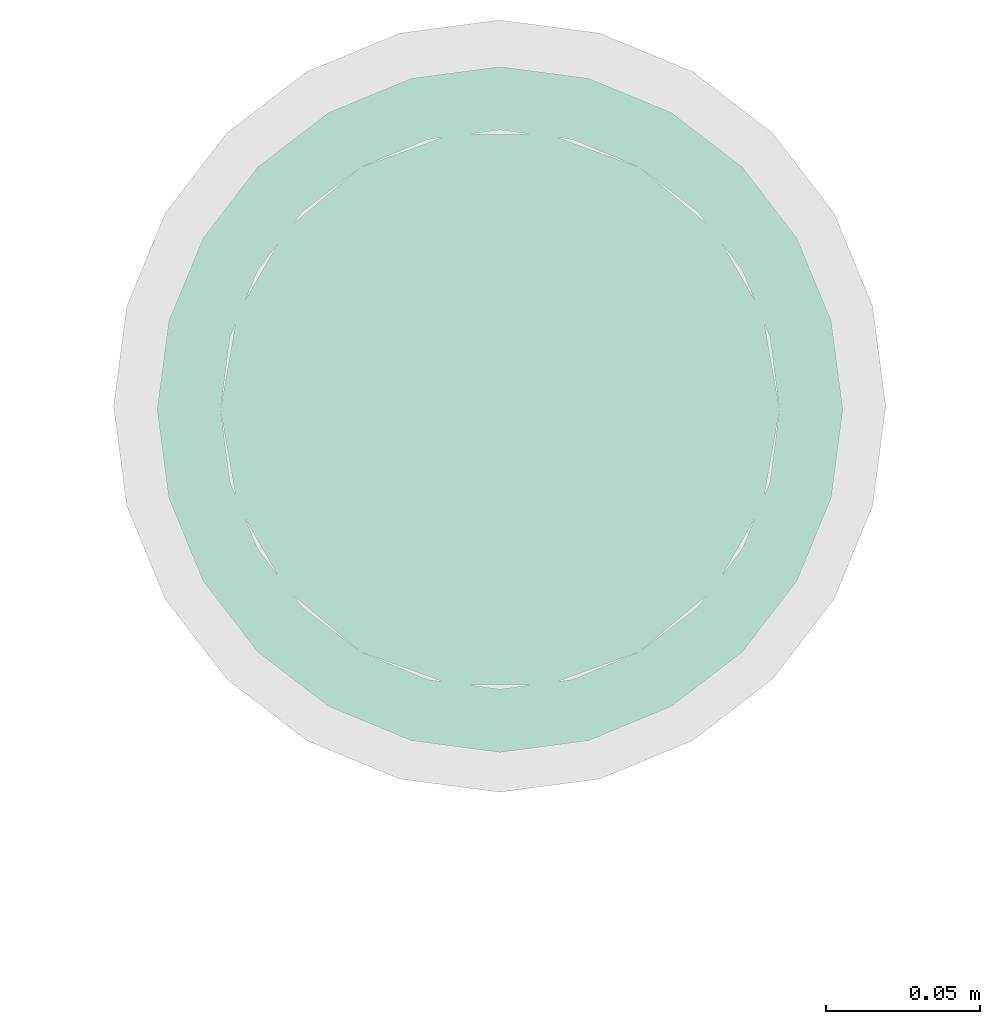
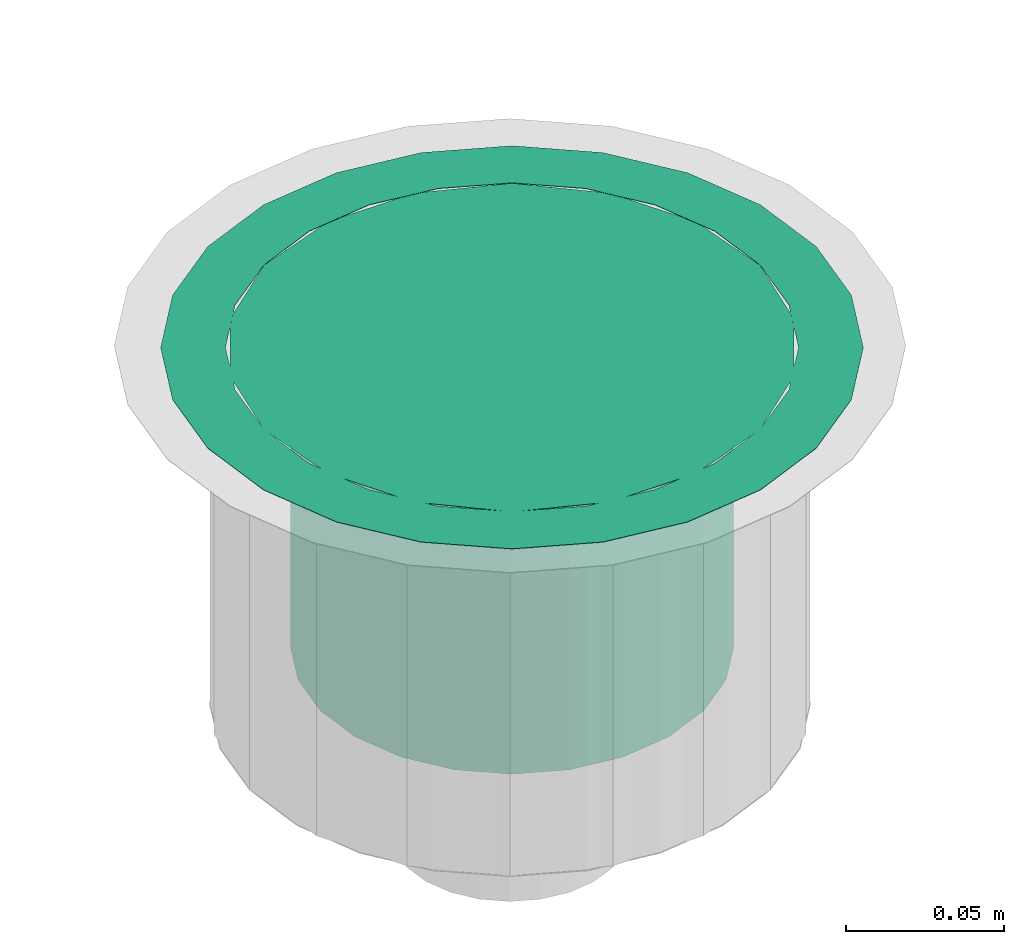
# One storey, part 61 of 108: 1 flow terminal.
"""IFC2X3 building model written with IfcOpenShell, lengths in millimetres."""

from ifc_helpers import new_model, entity, si_unit, converted_unit, derived_unit, direction, frame, origin_with_axes, place, context, subcontext, project, spatial, open_shell, surface_model, source, transform, mapped, type_object, element, save


model = new_model("IFC2X3")

# Units and contexts
model_context = context("Model", 3, precision=0.01, world=frame((0.0, 4.29681676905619e-09, 0.0)), true_north=direction((4.01073788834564e-13, 1.0)))
plan_context = context("Plan", 3, precision=0.01, world=frame((0.0, 4.29681676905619e-09, 0.0)), true_north=direction((4.01073788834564e-13, 1.0)))
body_context = subcontext(model_context, "Body", "Model", "MODEL_VIEW")
ifc_project = project(units=[converted_unit("PLANEANGLEUNIT", "DEGREE", entity("IfcPositiveLengthMeasure", 0.0174532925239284), si_unit("PLANEANGLEUNIT", "RADIAN"), dimensions=[0, 0, 0, 0, 0, 0, 0]), si_unit("AREAUNIT", "SQUARE_METRE"), si_unit("LENGTHUNIT", "METRE", prefix="MILLI"), si_unit("MASSUNIT", "GRAM", prefix="KILO"), si_unit("POWERUNIT", "WATT"), si_unit("PRESSUREUNIT", "PASCAL", prefix="KILO"), si_unit("FORCEUNIT", "NEWTON", prefix="KILO"), si_unit("ELECTRICVOLTAGEUNIT", "VOLT"), si_unit("ELECTRICCURRENTUNIT", "AMPERE"), si_unit("THERMODYNAMICTEMPERATUREUNIT", "DEGREE_CELSIUS"), si_unit("TIMEUNIT", "SECOND"), si_unit("VOLUMEUNIT", "CUBIC_METRE"), derived_unit("LINEARVELOCITYUNIT", [(si_unit("LENGTHUNIT", "METRE"), 1), (si_unit("TIMEUNIT", "SECOND"), -1)]), derived_unit("VOLUMETRICFLOWRATEUNIT", [(si_unit("VOLUMEUNIT", "CUBIC_METRE"), 1), (si_unit("TIMEUNIT", "SECOND"), -1)]), derived_unit("THERMALTRANSMITTANCEUNIT", [(si_unit("POWERUNIT", "WATT"), 1), (si_unit("THERMODYNAMICTEMPERATUREUNIT", "KELVIN"), -1), (si_unit("AREAUNIT", "SQUARE_METRE"), -1)]), derived_unit("SOUNDPRESSUREUNIT", [(si_unit("PRESSUREUNIT", "PASCAL"), 1)])], contexts=[model_context, plan_context])

# Site, building, storey
site_placement = place(None, frame((0.0, -4.29681676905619e-09, 0.0), z_axis=(0.0, 0.0, 1.0), x_axis=(1.0, 0.0, 0.0)))
site = spatial("IfcSite", under=ifc_project, at=site_placement, CompositionType="ELEMENT")
building_placement = place(site_placement, frame((0.0, 4.29681676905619e-09, 0.0), z_axis=(0.0, 0.0, 1.0), x_axis=(1.0, 0.0, 0.0)))
building = spatial("IfcBuilding", under=site, at=building_placement, Name="mc-building", CompositionType="ELEMENT")
storey_placement = place(building_placement, frame((0.0, 0.0, 210200.0), z_axis=(0.0, 0.0, 1.0), x_axis=(1.0, 0.0, 0.0)))
storey = spatial("IfcBuildingStorey", under=building, at=storey_placement, Name="Nivå F - 0,7 m", CompositionType="ELEMENT", Elevation=210200.0)

# Flow terminal
waste_terminal_type = type_object("IfcWasteTerminalType", Name="BM NO. 210.200.075 V  MULTI 206-75S D150 Horizontal", PredefinedType="NOTDEFINED")
shared_shape = source(origin_with_axes(), body_context, "Body", "SurfaceModel", [
    surface_model("IfcShellBasedSurfaceModel", [(10.04218, -37.47792, -122.9), (19.4, -33.60178, -122.9), (27.43574, -27.43574, -122.9), (-38.8, 0.0, -122.9), (37.47792, -10.04218, -122.9), (33.60178, -19.4, -122.9), (-19.4, -33.60178, -122.9), (0.0, -38.8, -122.9), (-10.04218, -37.47792, -122.9), (-33.60178, -19.4, -122.9), (-27.43574, -27.43574, -122.9), (-37.47792, -10.04218, -122.9), (38.8, 0.0, -122.9), (37.47792, 10.04218, -122.9), (33.60178, 19.4, -122.9), (27.43574, 27.43574, -122.9), (19.4, 33.60178, -122.9), (10.04218, 37.47792, -122.9), (0.0, 38.8, -122.9), (-37.47792, 10.04218, -122.9), (-27.43574, 27.43574, -122.9), (-33.60178, 19.4, -122.9), (-10.04218, 37.47792, -122.9), (-19.4, 33.60178, -122.9), (0.0, 38.8, -123.1), (10.04218, 37.47792, -123.1), (19.4, 33.60178, -123.1), (-10.04218, 37.47792, -123.1), (27.43574, 27.43574, -123.1), (33.60178, 19.4, -123.1), (37.47792, 10.04218, -123.1), (-37.47792, 10.04218, -123.1), (-19.4, 33.60178, -123.1), (-27.43574, 27.43574, -123.1), (-33.60178, 19.4, -123.1), (10.04218, -37.47792, -123.1), (-38.8, 0.0, -123.1), (38.8, 0.0, -123.1), (37.47792, -10.04218, -123.1), (33.60178, -19.4, -123.1), (27.43574, -27.43574, -123.1), (19.4, -33.60178, -123.1), (-19.4, -33.60178, -123.1), (-33.60178, -19.4, -123.1), (-27.43574, -27.43574, -123.1), (-37.47792, -10.04218, -123.1), (0.0, -38.8, -123.1), (-10.04218, -37.47792, -123.1), (-55.5, 96.12882, 0.1), (-78.48885, 78.48885, 0.1), (-45.25, 78.3753, 0.1), (-63.99316, 63.99316, 0.1), (-23.42312, 87.41628, 0.1), (-28.72892, 107.21777, 0.1), (0.0, 90.5, 0.1), (0.0, 111.0, 0.1), (-87.41628, 23.42312, 0.1), (-96.12882, 55.5, 0.1), (-107.21777, 28.72892, 0.1), (-90.5, 0.0, 0.1), (-111.0, 0.0, 0.1), (-78.3753, 45.25, 0.1), (23.42312, 87.41628, 0.1), (28.72892, 107.21777, 0.1), (45.25, 78.3753, 0.1), (78.48885, 78.48885, 0.1), (55.5, 96.12882, 0.1), (63.99316, 63.99316, 0.1), (78.3753, 45.25, 0.1), (87.41628, 23.42312, 0.1), (96.12882, 55.5, 0.1), (107.21777, 28.72892, 0.1), (90.5, 0.0, 0.1), (111.0, 0.0, 0.1), (-87.41628, -23.42312, 0.1), (-107.21777, -28.72892, 0.1), (-78.3753, -45.25, 0.1), (-96.12882, -55.5, 0.1), (-63.99316, -63.99316, 0.1), (-78.48885, -78.48885, 0.1), (-45.25, -78.3753, 0.1), (-55.5, -96.12882, 0.1), (-23.42312, -87.41628, 0.1), (-28.72892, -107.21777, 0.1), (0.0, -90.5, 0.1), (0.0, -111.0, 0.1), (96.12882, -55.5, 0.1), (78.3753, -45.25, 0.1), (78.48885, -78.48885, 0.1), (87.41628, -23.42312, 0.1), (107.21777, -28.72892, 0.1), (63.99316, -63.99316, 0.1), (23.42312, -87.41628, 0.1), (28.72892, -107.21777, 0.1), (45.25, -78.3753, 0.1), (55.5, -96.12882, 0.1), (-55.5, -96.12882, -0.1), (-78.48885, -78.48885, -0.1), (-45.25, -78.3753, -0.1), (-63.99316, -63.99316, -0.1), (-23.42312, -87.41628, -0.1), (-28.72892, -107.21777, -0.1), (0.0, -90.5, -0.1), (0.0, -111.0, -0.1), (-87.41628, -23.42312, -0.1), (-96.12882, -55.5, -0.1), (-107.21777, -28.72892, -0.1), (-90.5, 0.0, -0.1), (-111.0, 0.0, -0.1), (-78.3753, -45.25, -0.1), (23.42312, -87.41628, -0.1), (28.72892, -107.21777, -0.1), (45.25, -78.3753, -0.1), (78.48885, -78.48885, -0.1), (55.5, -96.12882, -0.1), (63.99316, -63.99316, -0.1), (78.3753, -45.25, -0.1), (87.41628, -23.42312, -0.1), (96.12882, -55.5, -0.1), (107.21777, -28.72892, -0.1), (90.5, 0.0, -0.1), (111.0, 0.0, -0.1), (-87.41628, 23.42312, -0.1), (-107.21777, 28.72892, -0.1), (-78.3753, 45.25, -0.1), (-96.12882, 55.5, -0.1), (-63.99316, 63.99316, -0.1), (-78.48885, 78.48885, -0.1), (-45.25, 78.3753, -0.1), (-55.5, 96.12882, -0.1), (-23.42312, 87.41628, -0.1), (-28.72892, 107.21777, -0.1), (0.0, 90.5, -0.1), (0.0, 111.0, -0.1), (96.12882, 55.5, -0.1), (78.3753, 45.25, -0.1), (78.48885, 78.48885, -0.1), (87.41628, 23.42312, -0.1), (107.21777, 28.72892, -0.1), (63.99316, 63.99316, -0.1), (23.42312, 87.41628, -0.1), (28.72892, 107.21777, -0.1), (45.25, 78.3753, -0.1), (55.5, 96.12882, -0.1), (-10.79227, 47.28401, -115.5), (-30.23926, 37.91883, -115.5), (-43.69699, 21.04336, -115.5), (43.69699, -21.04336, -115.5), (43.69699, 21.04336, -115.5), (10.79227, 47.28401, -115.5), (30.23926, 37.91883, -115.5), (-48.5, 0.0, -115.5), (-43.69699, -21.04336, -115.5), (-30.23926, -37.91883, -115.5), (-10.79227, -47.28401, -115.5), (10.79227, -47.28401, -115.5), (48.5, 0.0, -115.5), (30.23926, -37.91883, -115.5), (38.8, 0.0, -123.0), (0.0, 38.8, -123.0), (19.4, 33.60178, -123.0), (-19.4, 33.60178, -123.0), (-38.8, 0.0, -123.0), (-33.60178, 19.4, -123.0), (33.60178, 19.4, -123.0), (0.0, -38.8, -123.0), (33.60178, -19.4, -123.0), (19.4, -33.60178, -123.0), (-33.60178, -19.4, -123.0), (-19.4, -33.60178, -123.0), (-26.50089, -26.50089, -123.0), (-20.51576, -42.60141, -115.5), (-36.96812, -29.48109, -115.5), (-36.20089, -9.7, -123.0), (26.50089, -26.50089, -123.0), (46.09849, -10.52168, -115.5), (36.20089, -9.7, -123.0), (-9.7, -36.20089, -123.0), (0.0, -47.28401, -115.5), (20.51576, -42.60141, -115.5), (-46.09849, -10.52168, -115.5), (9.7, -36.20089, -123.0), (36.96812, -29.48109, -115.5), (26.50089, 26.50089, -123.0), (20.51576, 42.60141, -115.5), (36.96812, 29.48109, -115.5), (36.20089, 9.7, -123.0), (-26.50089, 26.50089, -123.0), (-46.09849, 10.52168, -115.5), (-36.20089, 9.7, -123.0), (9.7, 36.20089, -123.0), (0.0, 47.28401, -115.5), (-20.51576, 42.60141, -115.5), (46.09849, 10.52168, -115.5), (-9.7, 36.20089, -123.0), (-36.96812, 29.48109, -115.5), (-45.25, 78.3753, 0.0), (-69.32702, 58.17228, 0.0), (-85.04218, 30.95282, 0.0), (69.32702, -58.17228, 0.0), (-15.71516, 89.1251, 0.0), (-45.25, -78.3753, 0.0), (15.71516, 89.1251, 0.0), (45.25, 78.3753, 0.0), (69.32702, 58.17228, 0.0), (90.5, 0.0, 0.0), (85.04218, 30.95282, 0.0), (-90.5, 0.0, 0.0), (-85.04218, -30.95282, 0.0), (-69.32702, -58.17228, 0.0), (45.25, -78.3753, 0.0), (-15.71516, -89.1251, 0.0), (85.04218, -30.95282, 0.0), (15.71516, -89.1251, 0.0), (-26.78784, 64.67157, -20.0), (0.0, 70.0, -20.0), (26.78784, 64.67157, -20.0), (49.49747, 49.49747, -20.0), (-49.49747, -49.49747, -20.0), (-49.49747, 49.49747, -20.0), (-64.67157, 26.78784, -20.0), (-70.0, 0.0, -20.0), (64.67157, 26.78784, -20.0), (70.0, 0.0, -20.0), (64.67157, -26.78784, -20.0), (49.49747, -49.49747, -20.0), (26.78784, -64.67157, -20.0), (-64.67157, -26.78784, -20.0), (0.0, -70.0, -20.0), (-26.78784, -64.67157, -20.0), (-67.33578, -13.39392, -20.0), (38.14266, -57.08452, -20.0), (-38.14266, -57.08452, -20.0), (-13.39392, -67.33578, -20.0), (-57.08452, -38.14266, -20.0), (13.39392, -67.33578, -20.0), (57.08452, -38.14266, -20.0), (67.33578, -13.39392, -20.0), (67.33578, 13.39392, -20.0), (-38.14266, 57.08452, -20.0), (38.14266, 57.08452, -20.0), (13.39392, 67.33578, -20.0), (57.08452, 38.14266, -20.0), (-13.39392, 67.33578, -20.0), (-57.08452, 38.14266, -20.0), (-67.33578, 13.39392, -20.0), (67.61481, -18.11733, -20.0), (18.11733, -67.61481, -20.0), (35.0, -60.62178, -20.0), (-35.0, -60.62178, -20.0), (60.62178, -35.0, -20.0), (18.11733, 67.61481, -20.0), (-60.62178, -35.0, -20.0), (-18.11733, -67.61481, -20.0), (-67.61481, -18.11733, -20.0), (67.61481, 18.11733, -20.0), (60.62178, 35.0, -20.0), (35.0, 60.62178, -20.0), (-67.61481, 18.11733, -20.0), (-60.62178, 35.0, -20.0), (-35.0, 60.62178, -20.0), (-18.11733, 67.61481, -20.0), (18.11733, 67.61481, -105.5), (-70.0, 0.0, -105.5), (0.0, 70.0, -105.5), (49.49747, 49.49747, -105.5), (35.0, 60.62178, -105.5), (60.62178, 35.0, -105.5), (67.61481, 18.11733, -105.5), (-35.0, 60.62178, -105.5), (-18.11733, 67.61481, -105.5), (-49.49747, 49.49747, -105.5), (-67.61481, 18.11733, -105.5), (-60.62178, 35.0, -105.5), (70.0, 0.0, -105.5), (67.61481, -18.11733, -105.5), (0.0, -70.0, -105.5), (49.49747, -49.49747, -105.5), (60.62178, -35.0, -105.5), (35.0, -60.62178, -105.5), (18.11733, -67.61481, -105.5), (-60.62178, -35.0, -105.5), (-35.0, -60.62178, -105.5), (-49.49747, -49.49747, -105.5), (-67.61481, -18.11733, -105.5), (-18.11733, -67.61481, -105.5), (34.9, -60.44857, -105.5), (18.06557, -67.42162, -105.5), (0.0, -69.8, -105.5), (49.35605, -49.35605, -105.5), (69.8, 0.0, -105.5), (67.42162, -18.06557, -105.5), (60.44857, -34.9, -105.5), (-18.06557, -67.42162, -105.5), (-34.9, -60.44857, -105.5), (-49.35605, -49.35605, -105.5), (-60.44857, -34.9, -105.5), (-67.42162, -18.06557, -105.5), (-69.8, 0.0, -105.5), (67.42162, 18.06557, -105.5), (60.44857, 34.9, -105.5), (49.35605, 49.35605, -105.5), (34.9, 60.44857, -105.5), (18.06557, 67.42162, -105.5), (0.0, 69.8, -105.5), (-60.44857, 34.9, -105.5), (-49.35605, 49.35605, -105.5), (-67.42162, 18.06557, -105.5), (-18.06557, 67.42162, -105.5), (-34.9, 60.44857, -105.5), (18.11733, 67.61481, -115.5), (-70.0, 0.0, -115.5), (0.0, 70.0, -115.5), (49.49747, 49.49747, -115.5), (35.0, 60.62178, -115.5), (60.62178, 35.0, -115.5), (67.61481, 18.11733, -115.5), (-35.0, 60.62178, -115.5), (-18.11733, 67.61481, -115.5), (-49.49747, 49.49747, -115.5), (-67.61481, 18.11733, -115.5), (-60.62178, 35.0, -115.5), (70.0, 0.0, -115.5), (67.61481, -18.11733, -115.5), (0.0, -70.0, -115.5), (49.49747, -49.49747, -115.5), (60.62178, -35.0, -115.5), (35.0, -60.62178, -115.5), (18.11733, -67.61481, -115.5), (-60.62178, -35.0, -115.5), (-35.0, -60.62178, -115.5), (-49.49747, -49.49747, -115.5), (-67.61481, -18.11733, -115.5), (-18.11733, -67.61481, -115.5), (0.0, 69.8, -115.3), (-49.35605, 49.35605, -115.3), (18.06557, 67.42162, -115.3), (34.9, 60.44857, -115.3), (49.35605, 49.35605, -115.3), (67.42162, 18.06557, -115.3), (60.44857, 34.9, -115.3), (-69.8, 0.0, -115.3), (-67.42162, -18.06557, -115.3), (-18.06557, 67.42162, -115.3), (-34.9, 60.44857, -115.3), (-67.42162, 18.06557, -115.3), (-60.44857, 34.9, -115.3), (67.42162, -18.06557, -115.3), (60.44857, -34.9, -115.3), (18.06557, -67.42162, -115.3), (34.9, -60.44857, -115.3), (49.35605, -49.35605, -115.3), (-34.9, -60.44857, -115.3), (-60.44857, -34.9, -115.3), (-49.35605, -49.35605, -115.3), (-18.06557, -67.42162, -115.3), (0.0, -69.8, -115.3), (69.8, 0.0, -115.3)], [open_shell([[[0, 1, 2]], [[3, 0, 2]], [[3, 2, 4]], [[4, 2, 5]], [[6, 0, 3]], [[7, 6, 8]], [[7, 0, 6]], [[6, 9, 10]], [[6, 3, 9]], [[9, 3, 11]], [[4, 12, 13]], [[13, 14, 15]], [[4, 15, 3]], [[16, 17, 18]], [[3, 15, 16]], [[3, 16, 18]], [[19, 20, 21]], [[22, 19, 3]], [[19, 23, 20]], [[23, 19, 22]], [[3, 18, 22]], [[15, 4, 13]], [[24, 25, 26]], [[27, 24, 26]], [[28, 29, 30]], [[27, 26, 28]], [[31, 28, 30]], [[32, 31, 33]], [[32, 27, 28]], [[33, 31, 34]], [[28, 31, 32]], [[31, 35, 36]], [[31, 30, 37]], [[31, 38, 35]], [[35, 38, 39]], [[40, 41, 35]], [[40, 35, 39]], [[42, 36, 35]], [[43, 42, 44]], [[45, 36, 43]], [[42, 46, 47]], [[43, 36, 42]], [[46, 42, 35]], [[37, 38, 31]], [[45, 11, 36]], [[43, 9, 45]], [[6, 44, 42]], [[43, 44, 10]], [[8, 42, 47]], [[45, 9, 11]], [[11, 3, 36]], [[8, 6, 42]], [[10, 44, 6]], [[10, 9, 43]], [[7, 8, 47]], [[47, 46, 7]], [[35, 0, 46]], [[41, 1, 35]], [[5, 40, 39]], [[41, 40, 2]], [[4, 39, 38]], [[41, 2, 1]], [[1, 0, 35]], [[12, 4, 38]], [[5, 39, 4]], [[5, 2, 40]], [[37, 12, 38]], [[46, 0, 7]], [[30, 13, 37]], [[29, 14, 30]], [[16, 28, 26]], [[29, 28, 15]], [[17, 26, 25]], [[30, 14, 13]], [[13, 12, 37]], [[17, 16, 26]], [[15, 28, 16]], [[15, 14, 29]], [[18, 17, 25]], [[25, 24, 18]], [[27, 22, 24]], [[32, 23, 27]], [[21, 33, 34]], [[32, 33, 20]], [[19, 34, 31]], [[32, 20, 23]], [[23, 22, 27]], [[3, 19, 31]], [[21, 34, 19]], [[21, 20, 33]], [[36, 3, 31]], [[24, 22, 18]], [[48, 49, 50]], [[50, 49, 51]], [[48, 50, 52]], [[53, 52, 54]], [[52, 53, 48]], [[53, 54, 55]], [[56, 57, 58]], [[59, 58, 60]], [[56, 58, 59]], [[61, 51, 57]], [[56, 61, 57]], [[57, 51, 49]], [[55, 62, 63]], [[55, 54, 62]], [[63, 62, 64]], [[65, 66, 67]], [[64, 66, 63]], [[67, 66, 64]], [[68, 69, 70]], [[68, 70, 65]], [[69, 71, 70]], [[71, 69, 72]], [[71, 72, 73]], [[68, 65, 67]], [[74, 60, 75]], [[76, 75, 77]], [[76, 74, 75]], [[78, 76, 77]], [[77, 79, 78]], [[80, 79, 81]], [[79, 80, 78]], [[80, 81, 82]], [[82, 83, 84]], [[83, 82, 81]], [[84, 83, 85]], [[86, 87, 88]], [[89, 87, 90]], [[89, 90, 73]], [[90, 87, 86]], [[87, 91, 88]], [[73, 72, 89]], [[92, 85, 93]], [[85, 92, 84]], [[92, 93, 94]], [[95, 88, 91]], [[95, 94, 93]], [[95, 91, 94]], [[74, 59, 60]], [[96, 97, 98]], [[98, 97, 99]], [[96, 98, 100]], [[101, 100, 102]], [[100, 101, 96]], [[101, 102, 103]], [[104, 105, 106]], [[107, 106, 108]], [[104, 106, 107]], [[109, 99, 105]], [[104, 109, 105]], [[105, 99, 97]], [[103, 110, 111]], [[103, 102, 110]], [[111, 110, 112]], [[113, 114, 115]], [[112, 114, 111]], [[115, 114, 112]], [[116, 117, 118]], [[116, 118, 113]], [[117, 119, 118]], [[119, 117, 120]], [[119, 120, 121]], [[116, 113, 115]], [[122, 108, 123]], [[124, 123, 125]], [[124, 122, 123]], [[126, 124, 125]], [[125, 127, 126]], [[128, 127, 129]], [[127, 128, 126]], [[128, 129, 130]], [[130, 131, 132]], [[131, 130, 129]], [[132, 131, 133]], [[134, 135, 136]], [[137, 135, 138]], [[137, 138, 121]], [[138, 135, 134]], [[135, 139, 136]], [[121, 120, 137]], [[140, 133, 141]], [[133, 140, 132]], [[140, 141, 142]], [[143, 136, 139]], [[143, 142, 141]], [[143, 139, 142]], [[122, 107, 108]], [[59, 107, 56]], [[56, 122, 61]], [[50, 51, 126]], [[124, 51, 61]], [[52, 50, 128]], [[122, 124, 61]], [[56, 107, 122]], [[132, 54, 130]], [[52, 128, 130]], [[128, 50, 126]], [[51, 124, 126]], [[52, 130, 54]], [[62, 140, 64]], [[64, 142, 67]], [[69, 68, 135]], [[139, 68, 67]], [[72, 69, 137]], [[140, 142, 64]], [[62, 132, 140]], [[69, 135, 137]], [[135, 68, 139]], [[67, 142, 139]], [[72, 137, 120]], [[54, 132, 62]], [[72, 120, 89]], [[89, 117, 87]], [[94, 91, 115]], [[116, 91, 87]], [[92, 94, 112]], [[117, 116, 87]], [[89, 120, 117]], [[102, 84, 110]], [[92, 112, 110]], [[112, 94, 115]], [[91, 116, 115]], [[92, 110, 84]], [[82, 100, 80]], [[80, 98, 78]], [[104, 59, 74]], [[78, 99, 76]], [[74, 76, 109]], [[100, 98, 80]], [[82, 102, 100]], [[59, 104, 107]], [[109, 76, 99]], [[78, 98, 99]], [[109, 104, 74]], [[84, 102, 82]], [[106, 75, 108]], [[105, 77, 106]], [[81, 97, 96]], [[105, 97, 79]], [[83, 96, 101]], [[106, 77, 75]], [[75, 60, 108]], [[83, 81, 96]], [[79, 97, 81]], [[79, 77, 105]], [[85, 83, 101]], [[101, 103, 85]], [[111, 93, 103]], [[114, 95, 111]], [[86, 113, 118]], [[114, 113, 88]], [[90, 118, 119]], [[114, 88, 95]], [[95, 93, 111]], [[73, 90, 119]], [[86, 118, 90]], [[86, 88, 113]], [[121, 73, 119]], [[103, 93, 85]], [[138, 71, 121]], [[134, 70, 138]], [[66, 136, 143]], [[134, 136, 65]], [[63, 143, 141]], [[138, 70, 71]], [[71, 73, 121]], [[63, 66, 143]], [[65, 136, 66]], [[65, 70, 134]], [[55, 63, 141]], [[141, 133, 55]], [[131, 53, 133]], [[129, 48, 131]], [[123, 108, 58]], [[127, 49, 129]], [[129, 49, 48]], [[48, 53, 131]], [[125, 57, 49]], [[57, 125, 58]], [[58, 125, 123]], [[108, 60, 58]], [[125, 49, 127]], [[133, 53, 55]], [[144, 145, 146]], [[147, 148, 146]], [[149, 144, 148]], [[148, 150, 149]], [[144, 146, 148]], [[146, 151, 152]], [[152, 153, 154]], [[152, 154, 155]], [[148, 147, 156]], [[155, 157, 147]], [[152, 155, 147]], [[147, 146, 152]], [[158, 159, 160]], [[158, 161, 159]], [[161, 162, 163]], [[158, 162, 161]], [[158, 160, 164]], [[165, 158, 166]], [[165, 166, 167]], [[168, 165, 169]], [[168, 162, 165]], [[165, 162, 158]], [[170, 169, 153]], [[171, 153, 169]], [[172, 152, 168]], [[168, 152, 173]], [[157, 167, 174]], [[158, 175, 176]], [[171, 177, 154]], [[165, 178, 154]], [[167, 157, 179]], [[173, 152, 180]], [[165, 155, 178]], [[181, 167, 179]], [[162, 180, 151]], [[170, 153, 172]], [[162, 173, 180]], [[168, 170, 172]], [[175, 147, 176]], [[155, 181, 179]], [[177, 165, 154]], [[166, 182, 174]], [[147, 166, 176]], [[177, 171, 169]], [[182, 166, 147]], [[155, 165, 181]], [[182, 157, 174]], [[175, 158, 156]], [[183, 160, 150]], [[184, 150, 160]], [[185, 148, 164]], [[164, 148, 186]], [[145, 161, 187]], [[162, 188, 189]], [[184, 190, 149]], [[159, 191, 149]], [[161, 145, 192]], [[186, 148, 193]], [[159, 144, 191]], [[194, 161, 192]], [[158, 193, 156]], [[183, 150, 185]], [[158, 186, 193]], [[164, 183, 185]], [[188, 146, 189]], [[144, 194, 192]], [[190, 159, 149]], [[163, 195, 187]], [[146, 163, 189]], [[190, 184, 160]], [[195, 163, 146]], [[144, 159, 194]], [[195, 145, 187]], [[188, 162, 151]], [[196, 197, 198]], [[196, 199, 200]], [[198, 201, 196]], [[202, 200, 203]], [[200, 204, 203]], [[204, 200, 199]], [[204, 205, 206]], [[198, 207, 208]], [[208, 209, 201]], [[201, 210, 196]], [[210, 201, 211]], [[212, 205, 199]], [[199, 205, 204]], [[210, 199, 196]], [[211, 213, 210]], [[208, 201, 198]], [[214, 215, 216]], [[214, 216, 217]], [[217, 218, 214]], [[219, 214, 220]], [[218, 221, 220]], [[218, 220, 214]], [[217, 222, 218]], [[223, 224, 225]], [[225, 226, 223]], [[223, 226, 218]], [[221, 218, 227]], [[228, 229, 218]], [[226, 228, 218]], [[218, 222, 223]], [[207, 230, 208]], [[210, 226, 231]], [[201, 218, 232]], [[233, 228, 211]], [[208, 234, 209]], [[218, 201, 209]], [[234, 208, 227]], [[229, 211, 201]], [[213, 228, 235]], [[211, 229, 233]], [[226, 213, 235]], [[230, 227, 208]], [[224, 212, 236]], [[230, 207, 221]], [[225, 210, 231]], [[232, 229, 201]], [[237, 223, 205]], [[212, 224, 237]], [[226, 210, 213]], [[234, 218, 209]], [[236, 212, 199]], [[237, 205, 212]], [[199, 225, 236]], [[199, 210, 225]], [[228, 213, 211]], [[205, 238, 206]], [[196, 214, 239]], [[203, 217, 240]], [[241, 215, 202]], [[206, 242, 204]], [[217, 203, 204]], [[242, 206, 222]], [[216, 202, 203]], [[200, 215, 243]], [[202, 216, 241]], [[214, 200, 243]], [[238, 222, 206]], [[220, 198, 244]], [[238, 205, 223]], [[219, 196, 239]], [[240, 216, 203]], [[245, 221, 207]], [[198, 220, 245]], [[214, 196, 200]], [[242, 217, 204]], [[244, 198, 197]], [[245, 207, 198]], [[197, 219, 244]], [[197, 196, 219]], [[215, 200, 202]], [[246, 247, 248]], [[246, 248, 225]], [[247, 246, 249]], [[246, 225, 250]], [[246, 251, 252]], [[228, 249, 253]], [[228, 247, 249]], [[249, 252, 218]], [[246, 252, 249]], [[252, 221, 254]], [[246, 223, 255]], [[255, 256, 217]], [[255, 217, 257]], [[219, 252, 251]], [[246, 257, 251]], [[219, 251, 215]], [[258, 219, 259]], [[219, 258, 221]], [[215, 260, 219]], [[221, 252, 219]], [[261, 260, 215]], [[246, 255, 257]], [[262, 263, 264]], [[265, 262, 266]], [[265, 267, 268]], [[265, 268, 262]], [[263, 262, 268]], [[264, 269, 270]], [[264, 271, 269]], [[271, 272, 273]], [[272, 271, 263]], [[264, 263, 271]], [[268, 274, 263]], [[275, 276, 274]], [[277, 275, 278]], [[279, 280, 275]], [[279, 275, 277]], [[276, 275, 280]], [[281, 282, 283]], [[284, 263, 281]], [[282, 276, 285]], [[282, 281, 274]], [[276, 282, 274]], [[281, 263, 274]], [[254, 284, 281]], [[283, 252, 281]], [[249, 282, 285]], [[283, 282, 218]], [[253, 285, 276]], [[284, 221, 263]], [[284, 254, 221]], [[281, 252, 254]], [[283, 218, 252]], [[249, 218, 282]], [[285, 253, 249]], [[276, 228, 253]], [[247, 280, 279]], [[277, 248, 279]], [[250, 278, 275]], [[277, 278, 225]], [[246, 275, 274]], [[280, 247, 228]], [[279, 248, 247]], [[277, 225, 248]], [[278, 250, 225]], [[246, 250, 275]], [[274, 223, 246]], [[280, 228, 276]], [[268, 255, 274]], [[267, 256, 268]], [[251, 262, 264]], [[265, 217, 267]], [[268, 256, 255]], [[255, 223, 274]], [[266, 257, 217]], [[266, 262, 257]], [[262, 251, 257]], [[217, 256, 267]], [[217, 265, 266]], [[264, 215, 251]], [[261, 270, 269]], [[271, 260, 269]], [[259, 273, 272]], [[271, 273, 219]], [[258, 272, 263]], [[270, 261, 215]], [[269, 260, 261]], [[271, 219, 260]], [[273, 259, 219]], [[258, 259, 272]], [[263, 221, 258]], [[270, 215, 264]], [[279, 277, 286]], [[279, 286, 287]], [[288, 280, 287]], [[280, 288, 276]], [[287, 280, 279]], [[286, 277, 289]], [[275, 290, 291]], [[290, 275, 274]], [[275, 291, 278]], [[289, 278, 292]], [[278, 289, 277]], [[292, 278, 291]], [[276, 293, 285]], [[285, 293, 294]], [[283, 282, 295]], [[294, 282, 285]], [[294, 295, 282]], [[276, 288, 293]], [[296, 281, 283]], [[281, 296, 297]], [[296, 283, 295]], [[284, 297, 298]], [[297, 284, 281]], [[284, 298, 263]], [[274, 268, 299]], [[299, 268, 300]], [[300, 267, 301]], [[267, 300, 268]], [[301, 267, 265]], [[265, 266, 302]], [[302, 266, 303]], [[303, 262, 304]], [[262, 303, 266]], [[304, 262, 264]], [[302, 301, 265]], [[273, 305, 271]], [[271, 305, 306]], [[305, 273, 272]], [[263, 307, 272]], [[272, 307, 305]], [[263, 298, 307]], [[308, 264, 270]], [[308, 270, 309]], [[306, 269, 271]], [[306, 309, 269]], [[269, 309, 270]], [[304, 264, 308]], [[299, 290, 274]], [[310, 311, 312]], [[313, 310, 314]], [[313, 315, 316]], [[313, 316, 310]], [[311, 310, 316]], [[312, 317, 318]], [[312, 319, 317]], [[319, 320, 321]], [[320, 319, 311]], [[312, 311, 319]], [[316, 322, 311]], [[323, 324, 322]], [[325, 323, 326]], [[327, 328, 323]], [[327, 323, 325]], [[324, 323, 328]], [[329, 330, 331]], [[332, 311, 329]], [[330, 324, 333]], [[330, 329, 322]], [[324, 330, 322]], [[329, 311, 322]], [[332, 284, 311]], [[329, 281, 332]], [[282, 331, 330]], [[329, 331, 283]], [[285, 330, 333]], [[332, 281, 284]], [[284, 263, 311]], [[285, 282, 330]], [[283, 331, 282]], [[283, 281, 329]], [[276, 285, 333]], [[333, 324, 276]], [[328, 280, 324]], [[327, 279, 328]], [[278, 325, 326]], [[327, 325, 277]], [[275, 326, 323]], [[327, 277, 279]], [[279, 280, 328]], [[274, 275, 323]], [[278, 326, 275]], [[278, 277, 325]], [[322, 274, 323]], [[324, 280, 276]], [[316, 268, 322]], [[315, 267, 316]], [[266, 313, 314]], [[315, 313, 265]], [[262, 314, 310]], [[316, 267, 268]], [[268, 274, 322]], [[262, 266, 314]], [[265, 313, 266]], [[265, 267, 315]], [[264, 262, 310]], [[310, 312, 264]], [[318, 270, 312]], [[317, 269, 318]], [[273, 319, 321]], [[317, 319, 271]], [[272, 321, 320]], [[317, 271, 269]], [[269, 270, 318]], [[263, 272, 320]], [[273, 321, 272]], [[273, 271, 319]], [[311, 263, 320]], [[312, 270, 264]], [[334, 335, 336]], [[337, 336, 338]], [[339, 340, 338]], [[341, 338, 336]], [[341, 342, 338]], [[343, 344, 334]], [[344, 335, 334]], [[345, 341, 346]], [[335, 346, 341]], [[335, 341, 336]], [[342, 339, 338]], [[347, 339, 342]], [[348, 347, 349]], [[348, 349, 350]], [[351, 348, 350]], [[349, 347, 352]], [[353, 354, 342]], [[352, 342, 354]], [[355, 356, 352]], [[347, 342, 352]], [[352, 356, 349]], [[357, 339, 347]], [[341, 297, 342]], [[342, 296, 353]], [[352, 354, 294]], [[295, 354, 353]], [[355, 352, 293]], [[297, 296, 342]], [[341, 298, 297]], [[352, 294, 293]], [[294, 354, 295]], [[353, 296, 295]], [[355, 293, 288]], [[288, 356, 355]], [[356, 287, 349]], [[349, 286, 350]], [[348, 351, 292]], [[289, 351, 350]], [[347, 348, 291]], [[286, 289, 350]], [[349, 287, 286]], [[347, 291, 290]], [[291, 348, 292]], [[351, 289, 292]], [[347, 290, 357]], [[288, 287, 356]], [[357, 299, 339]], [[339, 300, 340]], [[337, 338, 302]], [[301, 338, 340]], [[336, 337, 303]], [[299, 300, 339]], [[357, 290, 299]], [[337, 302, 303]], [[302, 338, 301]], [[340, 300, 301]], [[336, 303, 304]], [[304, 334, 336]], [[334, 308, 343]], [[343, 309, 344]], [[346, 335, 305]], [[306, 335, 344]], [[345, 346, 307]], [[309, 306, 344]], [[343, 308, 309]], [[345, 307, 298]], [[307, 346, 305]], [[335, 306, 305]], [[345, 298, 341]], [[304, 308, 334]]])]),
])
flow_terminal_placement = place(storey_placement, frame((341086.39786, 466098.829, 10.0), z_axis=(0.0, 0.0, 1.0), x_axis=(1.0, 0.0, 0.0)))
element("IfcFlowTerminal", 1, at=flow_terminal_placement, inside=storey, type_object=waste_terminal_type, Name="BM NO. 210.200.075 V  MULTI 206-75S D150 Horizontal", context=body_context, shape_type="MappedRepresentation", body=[
    mapped(shared_shape, transform((0.0, 0.0, 0.0), scale=1.0)),
])

save(model, "model.ifc")
